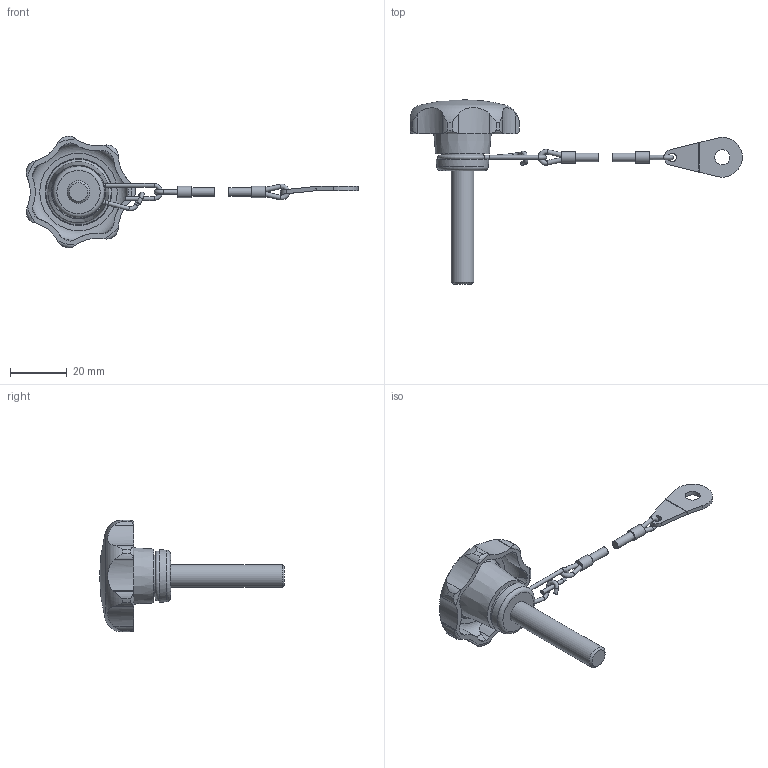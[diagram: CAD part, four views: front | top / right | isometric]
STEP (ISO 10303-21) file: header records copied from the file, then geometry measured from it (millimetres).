
FILE_DESCRIPTION( ( 'STEP AP203' ), '1' );
FILE_NAME( 'C:/Temp/Ganter_Step_05_03_2020/data/2_2/gn_6336_13/gn_6336_13_2/Star knob GN 6336.13-40-M8-40-H.stp', '2020-03-05T12:11:43', ( 'License CC BY-ND 4.0' ), ( 'CADENAS' ), ' ', 'PARTsolutions', ' ' );
FILE_SCHEMA( ( 'CONFIG_CONTROL_DESIGN' ) );
Length unit declared in the file: millimetre
Products named in the file (3): Star knob GN 6336.13-40-M8-40-H; _Star knob GN 6336.13-40-M8-40-H 6; _Star knob GN 111.2-200-14 h2
Assembly tree (2 placements, depth 2):
  Star knob GN 6336.13-40-M8-40-H
    _Star knob GN 6336.13-40-M8-40-H 6
    _Star knob GN 111.2-200-14 h2
Bounding box: 116.85 x 65 x 39.31 mm (x, y, z)
Volume: 13909.7 mm3; surface area: 7673.4 mm2
Topology: 2 solids, 2 shells, 154 faces, 422 edges, 274 vertices
Faces by surface type: cylinder 87, plane 35, torus 20, cone 11, sphere 1
Full cylindrical faces by diameter (mm): 1.4 x5, 1.6 x4, 3 x3, 4 x2, 5.3 x1, 8 x1, 14.7 x1
Entity records: 5502 total; most frequent: CARTESIAN_POINT 1785, ORIENTED_EDGE 738, DIRECTION 722, EDGE_CURVE 369, AXIS2_PLACEMENT_3D 302, VERTEX_POINT 263, EDGE_LOOP 205, FACE_OUTER_BOUND 183
